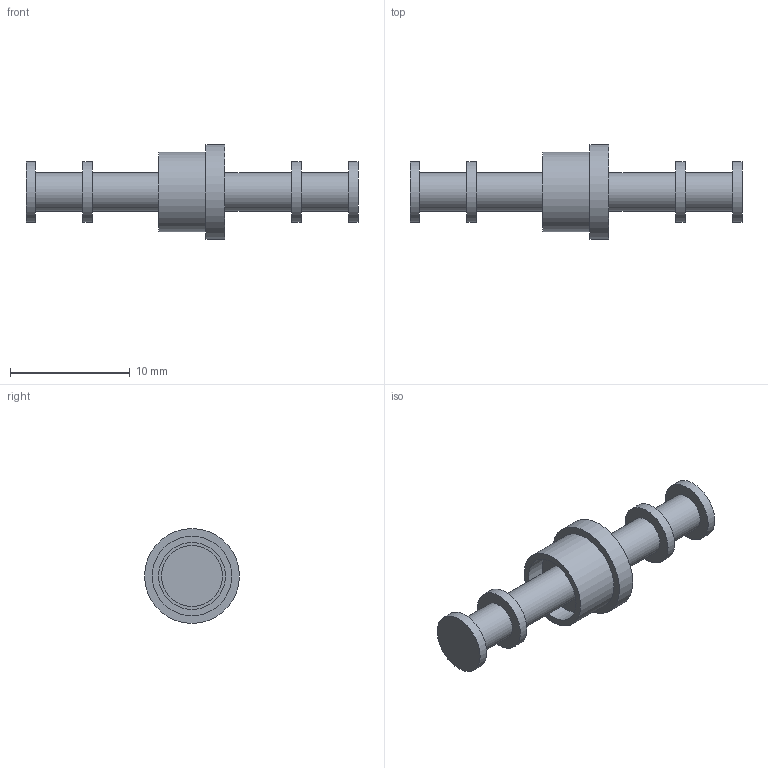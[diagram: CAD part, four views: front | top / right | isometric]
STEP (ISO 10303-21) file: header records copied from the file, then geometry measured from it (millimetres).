
FILE_DESCRIPTION(/* description */ (''),/* implementation_level */ '2;1');
FILE_NAME(/* name */ 'Z:\STEP folder\160-1620-04.ipt.stp',/* time_stamp */ '2016-12-07T10:48:39+00:00',/* author */ ('Paul Karlsons'),/* organization */ (''),/* preprocessor_version */ 'ST-DEVELOPER v15.2',/* originating_system */ 'Autodesk Inventor 2014',/* authorisation */ '');
FILE_SCHEMA (('AUTOMOTIVE_DESIGN { 1 0 10303 214 3 1 1 }'));
Length unit declared in the file: millimetre
Products named in the file (1): 160-1620-04
Bounding box: 27.73 x 7.92 x 7.92 mm (x, y, z)
Volume: 403.8 mm3; surface area: 602.9 mm2
Topology: 1 solids, 1 shells, 23 faces, 33 edges, 22 vertices
Faces by surface type: plane 12, cylinder 11
Full cylindrical faces by diameter (mm): 3.175 x4, 5.08 x4, 5.588 x1, 6.655 x1, 7.92 x1
Entity records: 475 total; most frequent: DIRECTION 92, CARTESIAN_POINT 68, AXIS2_PLACEMENT_3D 46, EDGE_LOOP 44, ORIENTED_EDGE 44, FACE_BOUND 25, ADVANCED_FACE 23, CIRCLE 22
